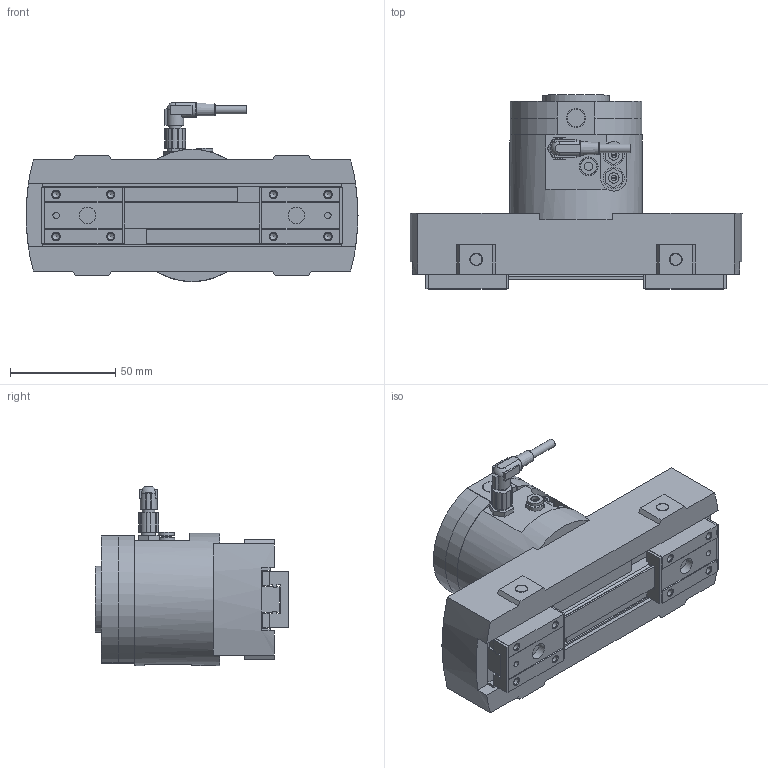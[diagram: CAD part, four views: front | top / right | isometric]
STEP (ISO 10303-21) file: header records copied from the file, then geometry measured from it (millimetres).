
FILE_DESCRIPTION(/* description */ ('STEP AP242','CAx-IF Rec.Pracs.---Representation and Presentation of Product Manufacturing Information (PMI)---4.0---2014-10-13','CAx-IF Rec.Pracs.---3D Tessellated Geometry---0.4---2014-09-14','2;1'),/* implementation_level */ '2;1');
FILE_NAME(/* name */ 'RMHF2-16D2-121P-DE(64_0)',/* time_stamp */ '2026-03-12T10:53:07+01:00',/* author */ ('License CC BY-ND 4.0'),/* organization */ ('CADENAS'),/* preprocessor_version */ 'ST-DEVELOPER v20',/* originating_system */ 'PARTsolutions',/* authorisation */ ' ');
FILE_SCHEMA (('AP242_MANAGED_MODEL_BASED_3D_ENGINEERING_MIM_LF { 1 0 10303 442 1 1 4 }'));
Length unit declared in the file: millimetre
Products named in the file (10): RMHF2-16D2-121P-DE(64_0); RMH-A00-02_RMHF2; V124-5MOU; RMH-A32-01(0); RMH-A32-08_121P; RMH-A00-05-P; RMHF2-16D2(0)_FINGER; RMH-A00-11-E_121; RMH-A00-09-A(0); RMTM2-4T2
Assembly tree (12 placements, depth 2):
  RMHF2-16D2-121P-DE(64_0)
    RMH-A00-02_RMHF2
    V124-5MOU  x2
    RMH-A32-01(0)
    RMH-A32-08_121P
    RMH-A00-05-P  x2
    RMHF2-16D2(0)_FINGER  x2
    RMH-A00-11-E_121
    RMH-A00-09-A(0)
    RMTM2-4T2
Bounding box: 158 x 92.3 x 85.3 mm (x, y, z)
Volume: 382698.6 mm3; surface area: 125142.2 mm2
Topology: 12 solids, 12 shells, 752 faces, 1933 edges, 1269 vertices
Faces by surface type: plane 522, cylinder 181, cone 40, torus 8, sphere 1
Full cylindrical faces by diameter (mm): 2 x2, 2.459 x4, 2.5 x2, 2.6 x2, 2.621 x2, 3 x2, 3.2 x4, 3.242 x8, 4 x2, 4.134 x6, 4.79 x1, 5 x4, 5.5 x4, 5.8 x1, 6 x5, 6.6 x4, 6.9 x1, 7.7 x1, 8 x4, 8.5 x2, 9 x3, 10 x2, 11 x4, 14 x1, 31.5 x3, 63 x1
Entity records: 16223 total; most frequent: CARTESIAN_POINT 2854, DIRECTION 2727, ORIENTED_EDGE 2542, EDGE_CURVE 1271, AXIS2_PLACEMENT_3D 911, LINE 905, VECTOR 905, VERTEX_POINT 902
